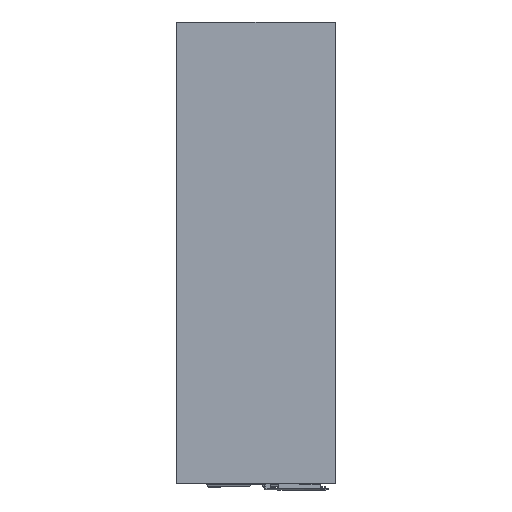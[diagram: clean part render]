
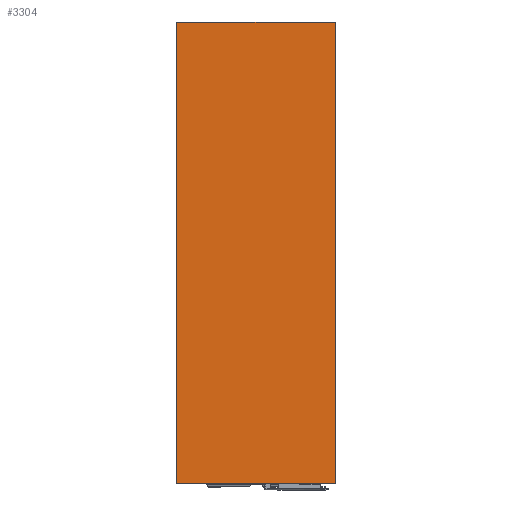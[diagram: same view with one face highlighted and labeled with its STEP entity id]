
A CAD part, left-side view. The second image highlights one B-rep face of the part: STEP entity #3304.
In plain terms, the highlighted planar face has unit normal (-1, 0, 0).
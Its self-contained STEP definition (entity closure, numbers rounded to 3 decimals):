
#29 = VERTEX_POINT ( 'NONE', #3577 ) ;
#78 = CARTESIAN_POINT ( 'NONE',  ( 2.5, -29., 0. ) ) ;
#131 = VERTEX_POINT ( 'NONE', #3789 ) ;
#564 = DIRECTION ( 'NONE',  ( 0., 0., -1. ) ) ;
#598 = AXIS2_PLACEMENT_3D ( 'NONE', #78, #1953, #1926 ) ;
#642 = VERTEX_POINT ( 'NONE', #3202 ) ;
#949 = CARTESIAN_POINT ( 'NONE',  ( 2.5, 156., -540. ) ) ;
#1139 = CARTESIAN_POINT ( 'NONE',  ( 2.5, 156., 0. ) ) ;
#1382 = PLANE ( 'NONE',  #598 ) ;
#1487 = DIRECTION ( 'NONE',  ( 0., -1., 0. ) ) ;
#1528 = CARTESIAN_POINT ( 'NONE',  ( 2.5, -29., 0. ) ) ;
#1634 = DIRECTION ( 'NONE',  ( 0., 1., 0. ) ) ;
#1926 = DIRECTION ( 'NONE',  ( 0., 0., 1. ) ) ;
#1953 = DIRECTION ( 'NONE',  ( 1., 0., 0. ) ) ;
#2038 = ORIENTED_EDGE ( 'NONE', *, *, #3208, .T. ) ;
#2050 = DIRECTION ( 'NONE',  ( 0., 0., -1. ) ) ;
#2285 = CARTESIAN_POINT ( 'NONE',  ( 2.5, -29., 0. ) ) ;
#2546 = CARTESIAN_POINT ( 'NONE',  ( 2.5, 155.9, -540. ) ) ;
#2557 = FACE_OUTER_BOUND ( 'NONE', #2894, .T. ) ;
#2688 = ORIENTED_EDGE ( 'NONE', *, *, #2844, .T. ) ;
#2756 = VECTOR ( 'NONE', #564, 1000. ) ;
#2787 = LINE ( 'NONE', #1139, #2756 ) ;
#2795 = VECTOR ( 'NONE', #1634, 1000. ) ;
#2824 = LINE ( 'NONE', #2285, #2849 ) ;
#2844 = EDGE_CURVE ( 'NONE', #3323, #29, #3399, .T. ) ;
#2849 = VECTOR ( 'NONE', #2050, 1000. ) ;
#2854 = LINE ( 'NONE', #1528, #2795 ) ;
#2894 = EDGE_LOOP ( 'NONE', ( #3661, #3472, #2038, #2688 ) ) ;
#3183 = EDGE_CURVE ( 'NONE', #642, #29, #2824, .T. ) ;
#3198 = EDGE_CURVE ( 'NONE', #642, #131, #2854, .T. ) ;
#3202 = CARTESIAN_POINT ( 'NONE',  ( 2.5, -29., 0. ) ) ;
#3208 = EDGE_CURVE ( 'NONE', #131, #3323, #2787, .T. ) ;
#3304 = ADVANCED_FACE ( 'NONE', ( #2557 ), #1382, .F. ) ;
#3323 = VERTEX_POINT ( 'NONE', #949 ) ;
#3362 = VECTOR ( 'NONE', #1487, 1000. ) ;
#3399 = LINE ( 'NONE', #2546, #3362 ) ;
#3472 = ORIENTED_EDGE ( 'NONE', *, *, #3198, .T. ) ;
#3577 = CARTESIAN_POINT ( 'NONE',  ( 2.5, -29., -540. ) ) ;
#3661 = ORIENTED_EDGE ( 'NONE', *, *, #3183, .F. ) ;
#3789 = CARTESIAN_POINT ( 'NONE',  ( 2.5, 156., 0. ) ) ;
